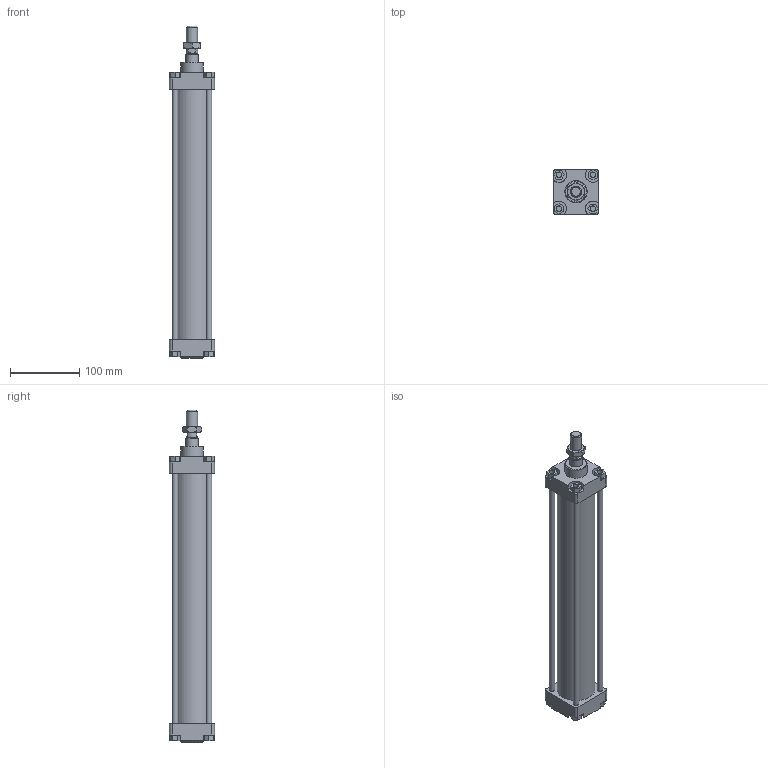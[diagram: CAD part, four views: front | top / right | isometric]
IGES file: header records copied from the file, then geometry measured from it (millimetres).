
Global section: file name: 130#_050_0300_01A; native system: Autodesk Inventor 2014; preprocessor: unknown; author: A. Manieri; date: 20161123.145516; units: millimetre
Bounding box: 65 x 65 x 479 mm (x, y, z)
Volume: 591304.3 mm3; surface area: 234864.5 mm2
Topology: 9 solids, 9 shells, 163 faces, 401 edges, 268 vertices
Faces by surface type: bspline 163
